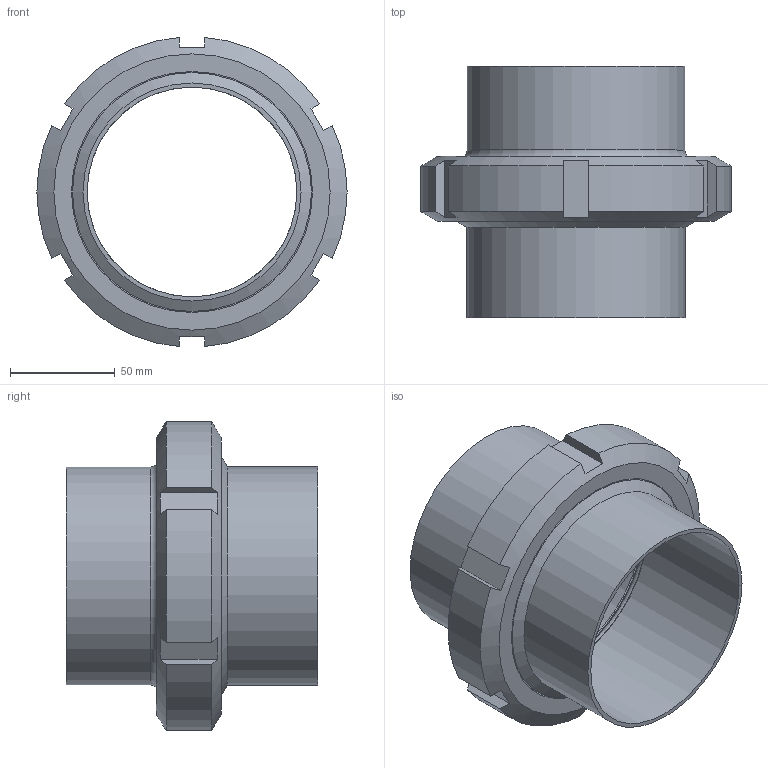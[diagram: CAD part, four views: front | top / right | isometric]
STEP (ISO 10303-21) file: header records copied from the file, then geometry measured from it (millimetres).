
FILE_DESCRIPTION(/* description */ ('Aseptik_Rohrverbindung_DIN 11864-1-A_104x2_L120'),/* implementation_level */ '2;1');
FILE_NAME(/* name */ 'L:\Normteile\N0024 - Rohrverbindungen\N0024_002 - DIN11864\N0024_002_001 - geschraubt\N0024_002_001\Step Marketing\DIN11864-1-A_104x2_L120.stp',/* time_stamp */ '2021-08-31T10:21:50+02:00',/* author */ ('Csasse'),/* organization */ ('Dockweiler AG'),/* preprocessor_version */ 'ST-DEVELOPER v18',/* originating_system */ 'Autodesk Inventor 2020',/* authorisation */ '');
FILE_SCHEMA (('AUTOMOTIVE_DESIGN { 1 0 10303 214 3 1 1 }'));
Length unit declared in the file: millimetre
Products named in the file (5): N0024_002_001_38; N0003_007_001_10; N0003_007_002_10; N0005_005_002_001_09; N0009_009_20
Assembly tree (4 placements, depth 2):
  N0024_002_001_38
    N0003_007_001_10
    N0003_007_002_10
    N0005_005_002_001_09
    N0009_009_20
Bounding box: 148 x 120 x 147.51 mm (x, y, z)
Volume: 338460.9 mm3; surface area: 144107.1 mm2
Topology: 4 solids, 4 shells, 68 faces, 200 edges, 144 vertices
Faces by surface type: plane 30, cylinder 16, torus 12, cone 10
Full cylindrical faces by diameter (mm): 100 x2, 104 x2, 114 x1, 115 x1, 118.9 x1, 119 x1, 123.65 x1, 130.635 x1
Entity records: 2600 total; most frequent: CARTESIAN_POINT 497, DIRECTION 434, ORIENTED_EDGE 400, EDGE_CURVE 200, AXIS2_PLACEMENT_3D 195, VERTEX_POINT 144, CIRCLE 118, EDGE_LOOP 80
